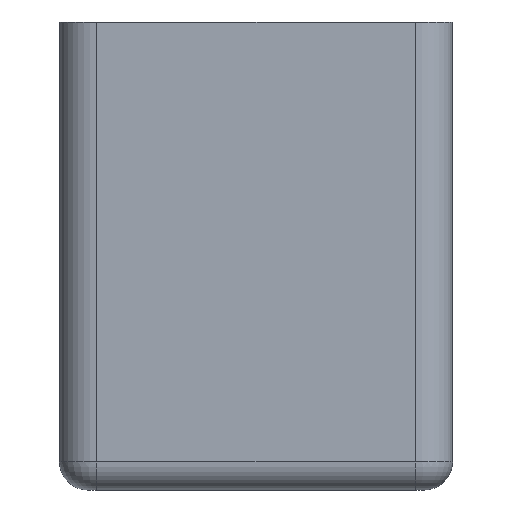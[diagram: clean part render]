
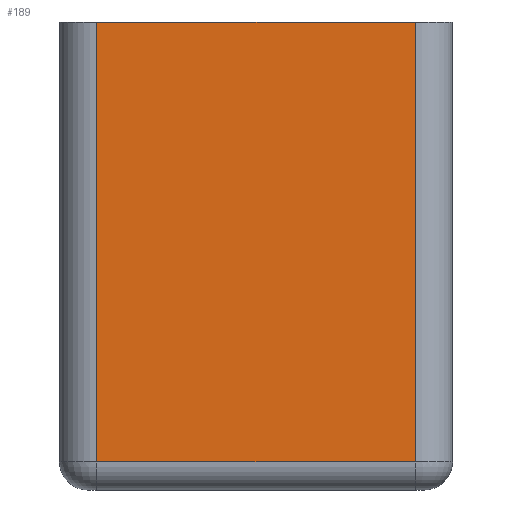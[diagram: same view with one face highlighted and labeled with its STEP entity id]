
A CAD part, front view. The second image highlights one B-rep face of the part: STEP entity #189.
In plain terms, the highlighted planar face has unit normal (0, -1, 0).
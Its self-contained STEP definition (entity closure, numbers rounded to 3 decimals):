
#61 = VERTEX_POINT ( 'NONE', #839 ) ;
#96 = CARTESIAN_POINT ( 'NONE',  ( -21., -21., 63. ) ) ;
#109 = VERTEX_POINT ( 'NONE', #968 ) ;
#117 = DIRECTION ( 'NONE',  ( 0., 1., 0. ) ) ;
#189 = ADVANCED_FACE ( 'NONE', ( #523 ), #904, .F. ) ;
#201 = LINE ( 'NONE', #227, #1306 ) ;
#209 = CARTESIAN_POINT ( 'NONE',  ( 17., -21., 63. ) ) ;
#227 = CARTESIAN_POINT ( 'NONE',  ( -21., -21., 50. ) ) ;
#244 = VECTOR ( 'NONE', #1128, 1000. ) ;
#295 = EDGE_LOOP ( 'NONE', ( #1371, #826, #1399, #1285 ) ) ;
#329 = VERTEX_POINT ( 'NONE', #401 ) ;
#401 = CARTESIAN_POINT ( 'NONE',  ( 17., -21., 3. ) ) ;
#523 = FACE_OUTER_BOUND ( 'NONE', #295, .T. ) ;
#596 = VECTOR ( 'NONE', #1505, 1000. ) ;
#619 = LINE ( 'NONE', #1516, #596 ) ;
#634 = CARTESIAN_POINT ( 'NONE',  ( 17., -21., 3. ) ) ;
#652 = DIRECTION ( 'NONE',  ( 1., 0., 0. ) ) ;
#826 = ORIENTED_EDGE ( 'NONE', *, *, #1186, .T. ) ;
#839 = CARTESIAN_POINT ( 'NONE',  ( -17., -21., 50. ) ) ;
#904 = PLANE ( 'NONE',  #1093 ) ;
#917 = EDGE_CURVE ( 'NONE', #329, #1497, #1012, .T. ) ;
#941 = EDGE_CURVE ( 'NONE', #61, #1497, #201, .T. ) ;
#968 = CARTESIAN_POINT ( 'NONE',  ( -17., -21., 3. ) ) ;
#1012 = LINE ( 'NONE', #209, #244 ) ;
#1093 = AXIS2_PLACEMENT_3D ( 'NONE', #96, #117, #1386 ) ;
#1128 = DIRECTION ( 'NONE',  ( 0., 0., 1. ) ) ;
#1186 = EDGE_CURVE ( 'NONE', #61, #109, #619, .T. ) ;
#1200 = VECTOR ( 'NONE', #652, 1000. ) ;
#1285 = ORIENTED_EDGE ( 'NONE', *, *, #917, .T. ) ;
#1306 = VECTOR ( 'NONE', #1653, 1000. ) ;
#1371 = ORIENTED_EDGE ( 'NONE', *, *, #941, .F. ) ;
#1386 = DIRECTION ( 'NONE',  ( 0., 0., 1. ) ) ;
#1399 = ORIENTED_EDGE ( 'NONE', *, *, #1614, .T. ) ;
#1492 = CARTESIAN_POINT ( 'NONE',  ( 17., -21., 50. ) ) ;
#1497 = VERTEX_POINT ( 'NONE', #1492 ) ;
#1505 = DIRECTION ( 'NONE',  ( 0., 0., -1. ) ) ;
#1516 = CARTESIAN_POINT ( 'NONE',  ( -17., -21., 63. ) ) ;
#1614 = EDGE_CURVE ( 'NONE', #109, #329, #1663, .T. ) ;
#1653 = DIRECTION ( 'NONE',  ( 1., 0., 0. ) ) ;
#1663 = LINE ( 'NONE', #634, #1200 ) ;
